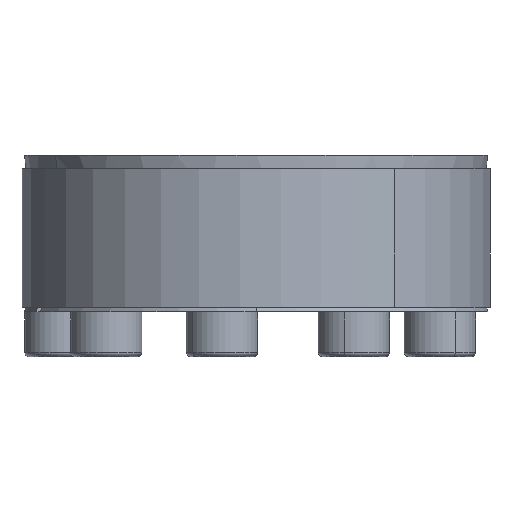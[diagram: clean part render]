
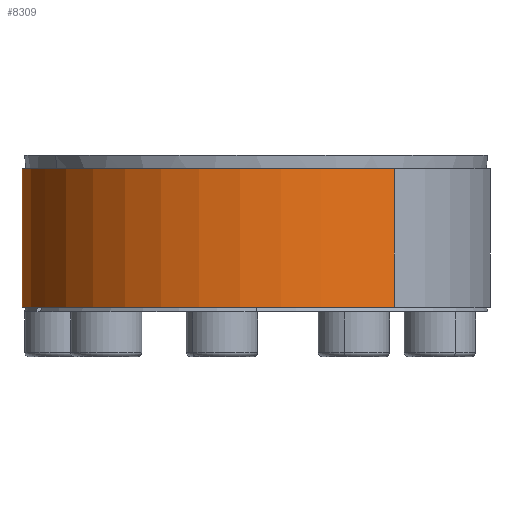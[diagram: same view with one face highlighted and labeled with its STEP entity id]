
A CAD part, left-side view. The second image highlights one B-rep face of the part: STEP entity #8309.
In plain terms, the highlighted cylindrical face has radius 52.48 mm (diameter 104.96 mm), a partial arc.
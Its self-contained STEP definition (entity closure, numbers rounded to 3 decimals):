
#216 = EDGE_CURVE ( 'NONE', #1264, #13802, #12368, .T. ) ;
#1264 = VERTEX_POINT ( 'NONE', #11382 ) ;
#1799 = FACE_OUTER_BOUND ( 'NONE', #9685, .T. ) ;
#1993 = DIRECTION ( 'NONE',  ( 0., 0., 1. ) ) ;
#2229 = DIRECTION ( 'NONE',  ( 0., 0., -1. ) ) ;
#2690 = CARTESIAN_POINT ( 'NONE',  ( 0., 0., 32.054 ) ) ;
#2801 = CIRCLE ( 'NONE', #4361, 52.48 ) ;
#2913 = EDGE_CURVE ( 'NONE', #13802, #5601, #10965, .T. ) ;
#2916 = EDGE_CURVE ( 'NONE', #1264, #5458, #2801, .T. ) ;
#2930 = AXIS2_PLACEMENT_3D ( 'NONE', #12640, #6244, #13701 ) ;
#3291 = CARTESIAN_POINT ( 'NONE',  ( 42.457, 30.847, 32.054 ) ) ;
#3310 = ORIENTED_EDGE ( 'NONE', *, *, #7685, .F. ) ;
#3968 = ORIENTED_EDGE ( 'NONE', *, *, #216, .T. ) ;
#4000 = ORIENTED_EDGE ( 'NONE', *, *, #2913, .T. ) ;
#4361 = AXIS2_PLACEMENT_3D ( 'NONE', #8361, #1993, #9437 ) ;
#5458 = VERTEX_POINT ( 'NONE', #8042 ) ;
#5601 = VERTEX_POINT ( 'NONE', #10480 ) ;
#5941 = AXIS2_PLACEMENT_3D ( 'NONE', #2690, #6913, #9115 ) ;
#6244 = DIRECTION ( 'NONE',  ( 0., 0., 1. ) ) ;
#6661 = CARTESIAN_POINT ( 'NONE',  ( -42.457, -30.847, 32.054 ) ) ;
#6680 = VECTOR ( 'NONE', #2229, 1000. ) ;
#6913 = DIRECTION ( 'NONE',  ( 0., 0., -1. ) ) ;
#7166 = ORIENTED_EDGE ( 'NONE', *, *, #2916, .F. ) ;
#7685 = EDGE_CURVE ( 'NONE', #5458, #5601, #12879, .T. ) ;
#7998 = CARTESIAN_POINT ( 'NONE',  ( 42.457, 30.847, 1.054 ) ) ;
#8042 = CARTESIAN_POINT ( 'NONE',  ( -42.457, -30.847, 32.054 ) ) ;
#8309 = ADVANCED_FACE ( 'NONE', ( #1799 ), #11462, .T. ) ;
#8361 = CARTESIAN_POINT ( 'NONE',  ( 0., 0., 32.054 ) ) ;
#9115 = DIRECTION ( 'NONE',  ( 0.809, 0.588, 0. ) ) ;
#9437 = DIRECTION ( 'NONE',  ( -0.809, -0.588, 0. ) ) ;
#9685 = EDGE_LOOP ( 'NONE', ( #3310, #7166, #3968, #4000 ) ) ;
#10021 = VECTOR ( 'NONE', #13124, 1000. ) ;
#10480 = CARTESIAN_POINT ( 'NONE',  ( -42.457, -30.847, 1.054 ) ) ;
#10965 = CIRCLE ( 'NONE', #2930, 52.48 ) ;
#11382 = CARTESIAN_POINT ( 'NONE',  ( 42.457, 30.847, 32.054 ) ) ;
#11462 = CYLINDRICAL_SURFACE ( 'NONE', #5941, 52.48 ) ;
#12368 = LINE ( 'NONE', #3291, #6680 ) ;
#12640 = CARTESIAN_POINT ( 'NONE',  ( 0., 0., 1.054 ) ) ;
#12879 = LINE ( 'NONE', #6661, #10021 ) ;
#13124 = DIRECTION ( 'NONE',  ( 0., 0., -1. ) ) ;
#13701 = DIRECTION ( 'NONE',  ( -0.809, -0.588, 0. ) ) ;
#13802 = VERTEX_POINT ( 'NONE', #7998 ) ;
